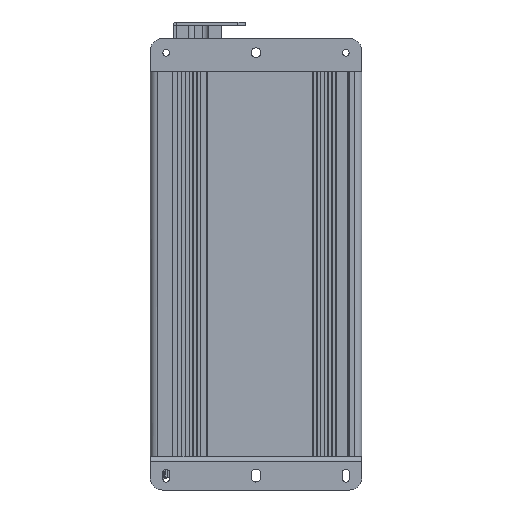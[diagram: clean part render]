
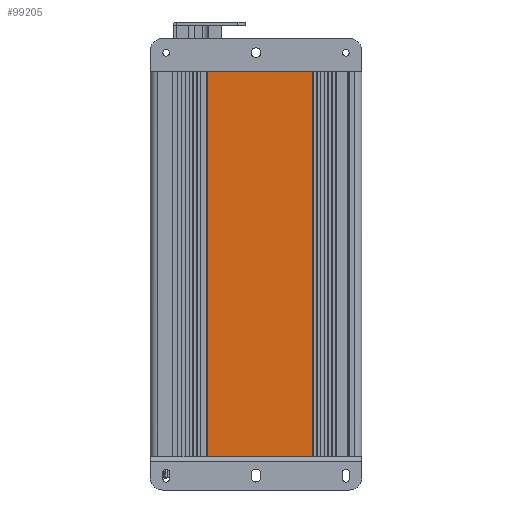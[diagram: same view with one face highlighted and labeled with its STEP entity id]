
A CAD part, front view. The second image highlights one B-rep face of the part: STEP entity #99205.
In plain terms, the highlighted planar face has unit normal (0, -1, 0).
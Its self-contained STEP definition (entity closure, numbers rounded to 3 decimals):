
#6589=PLANE('',#105340);
#7601=LINE('',#130838,#16437);
#12919=LINE('',#158814,#21755);
#14010=LINE('',#170291,#22846);
#14011=LINE('',#170293,#22847);
#16437=VECTOR('',#108192,10.);
#21755=VECTOR('',#119464,10.);
#22846=VECTOR('',#123325,10.);
#22847=VECTOR('',#123328,10.);
#29764=FACE_OUTER_BOUND('',#35389,.T.);
#35389=EDGE_LOOP('',(#82618,#82619,#82620,#82621));
#39943=VERTEX_POINT('',#130835);
#39944=VERTEX_POINT('',#130837);
#45376=VERTEX_POINT('',#158811);
#45377=VERTEX_POINT('',#158813);
#49091=EDGE_CURVE('',#39943,#39944,#7601,.T.);
#56946=EDGE_CURVE('',#45377,#45376,#12919,.T.);
#58912=EDGE_CURVE('',#45376,#39944,#14010,.T.);
#58913=EDGE_CURVE('',#45377,#39943,#14011,.T.);
#82618=ORIENTED_EDGE('',*,*,#56946,.T.);
#82619=ORIENTED_EDGE('',*,*,#58912,.T.);
#82620=ORIENTED_EDGE('',*,*,#49091,.F.);
#82621=ORIENTED_EDGE('',*,*,#58913,.F.);
#99205=ADVANCED_FACE('',(#29764),#6589,.T.);
#105340=AXIS2_PLACEMENT_3D('',#170292,#123326,#123327);
#108192=DIRECTION('',(1.,0.,0.));
#119464=DIRECTION('',(1.,0.,0.));
#123325=DIRECTION('',(0.,0.,1.));
#123326=DIRECTION('center_axis',(0.,-1.,0.));
#123327=DIRECTION('ref_axis',(1.,0.,0.));
#123328=DIRECTION('',(0.,0.,1.));
#130835=CARTESIAN_POINT('',(180.203,104.131,22.));
#130837=CARTESIAN_POINT('',(250.203,104.131,22.));
#130838=CARTESIAN_POINT('',(196.403,104.131,22.));
#158811=CARTESIAN_POINT('',(250.203,104.131,-233.));
#158813=CARTESIAN_POINT('',(180.203,104.131,-233.));
#158814=CARTESIAN_POINT('',(180.203,104.131,-233.));
#170291=CARTESIAN_POINT('',(250.203,104.131,-233.));
#170292=CARTESIAN_POINT('Origin',(180.203,104.131,-233.));
#170293=CARTESIAN_POINT('',(180.203,104.131,-233.));
